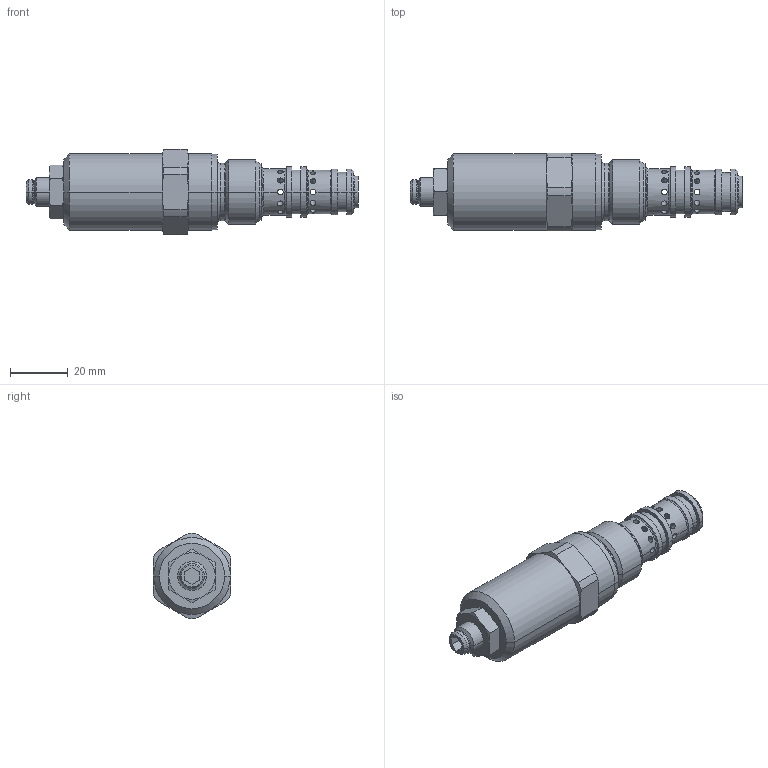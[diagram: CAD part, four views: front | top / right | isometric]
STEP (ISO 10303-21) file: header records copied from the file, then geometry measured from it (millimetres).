
FILE_DESCRIPTION((''),'2;1');
FILE_NAME('SP2A_B3_H_S','2016-04-06T',('l.soukupova'),(''),'PRO/ENGINEER BY PARAMETRIC TECHNOLOGY CORPORATION, 2015110','PRO/ENGINEER BY PARAMETRIC TECHNOLOGY CORPORATION, 2015110','');
FILE_SCHEMA(('AUTOMOTIVE_DESIGN { 1 0 10303 214 1 1 1 1 }'));
Length unit declared in the file: millimetre
Products named in the file (1): SP2A_B3_H_S
Bounding box: 114.5 x 26.8 x 29.49 mm (x, y, z)
Volume: 40301.5 mm3; surface area: 10480.6 mm2
Topology: 1 solids, 1 shells, 191 faces, 493 edges, 335 vertices
Faces by surface type: cylinder 96, cone 44, plane 33, torus 18
Entity records: 9203 total; most frequent: CARTESIAN_POINT 4480, DIRECTION 937, ORIENTED_EDGE 924, EDGE_CURVE 462, AXIS2_PLACEMENT_3D 370, VERTEX_POINT 277, EDGE_LOOP 245, VECTOR 197
